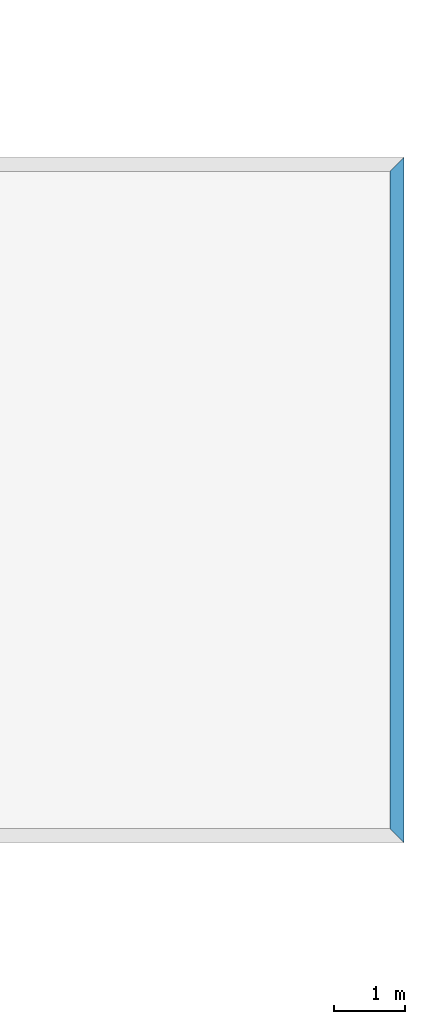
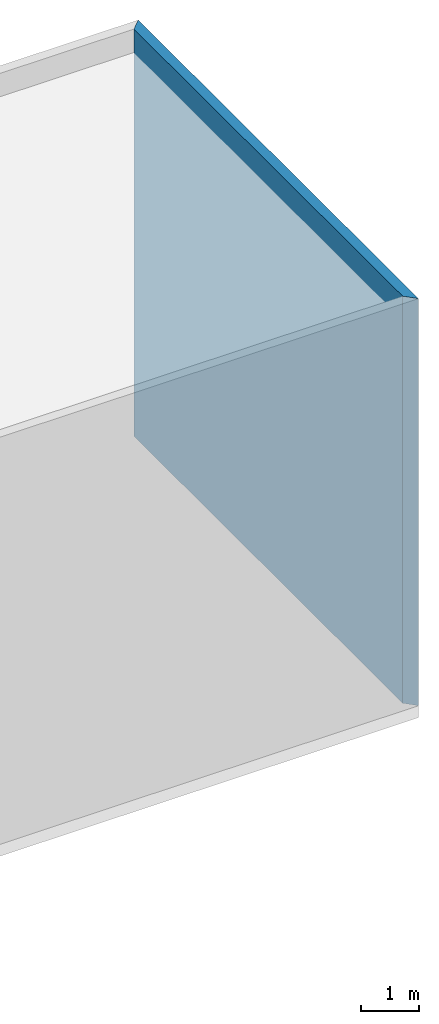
# One storey, part 39 of 123: 1 beam, 1 element without a shape of its own.
"""IFC2X3 building model written with IfcOpenShell, lengths in millimetres."""

from ifc_helpers import new_model, si_unit, frame, origin_with_axes, origin_2d_with_axis, place, context, subcontext, project, spatial, rectangle, extrude, clip, halfspace, material, type_object, element, aggregate, save


model = new_model("IFC2X3")

# Units and contexts
model_context = context("Model", 3, precision=1e-05, world=origin_with_axes())
body_context = subcontext(model_context, "Body", "Model", "MODEL_VIEW")
ifc_project = project(units=[si_unit("LENGTHUNIT", "METRE", prefix="MILLI"), si_unit("AREAUNIT", "SQUARE_METRE"), si_unit("VOLUMEUNIT", "CUBIC_METRE"), si_unit("MASSUNIT", "GRAM", prefix="KILO"), si_unit("TIMEUNIT", "SECOND"), si_unit("PLANEANGLEUNIT", "RADIAN"), si_unit("SOLIDANGLEUNIT", "STERADIAN"), si_unit("THERMODYNAMICTEMPERATUREUNIT", "DEGREE_CELSIUS"), si_unit("LUMINOUSINTENSITYUNIT", "LUMEN")], contexts=[model_context])

# Site, building, storey
site_placement = place(None, origin_with_axes())
site = spatial("IfcSite", under=ifc_project, at=site_placement, Name="Undefined", CompositionType="ELEMENT")
building_placement = place(site_placement, origin_with_axes())
building = spatial("IfcBuilding", under=site, at=building_placement, Name="Undefined", CompositionType="ELEMENT")
storey_placement = place(building_placement, origin_with_axes())
storey = spatial("IfcBuildingStorey", under=building, at=storey_placement, Name="Undefined", CompositionType="ELEMENT", Elevation=0.0)

# Assembly, beam
assembly_placement = place(storey_placement, origin_with_axes())
assembly = element("IfcElementAssembly", 1, at=assembly_placement, inside=storey, Name="POUTRE", AssemblyPlace="NOTDEFINED", PredefinedType="REINFORCEMENT_UNIT")
ifc_material = material(Name="CONCRETE/C25/30")
beam_type = type_object("IfcBeamType", Name="8550*200", PredefinedType="NOTDEFINED")
beam_placement = place(assembly_placement, frame((48979.9999999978, 15389.9999999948, 4275.0), z_axis=(0.0, 0.0, 1.0), x_axis=(0.0, 1.0, 0.0)))
beam = element("IfcBeam", 2, at=beam_placement, type_object=beam_type, material=ifc_material, Name="POUTRE", ObjectType="8550*200", context=body_context, shape_type="Clipping", body=[
    clip(clip(extrude(rectangle(XDim=200.0, YDim=8550.0, at=origin_2d_with_axis()), frame((9752.0002879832, 0.0, 0.0), z_axis=(-1.0, 0.0, 0.0), x_axis=(0.0, -1.0, 0.0)), (0.0, 0.0, 1.0), 9854.0), halfspace(frame((9650.0001439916, -99.9998560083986, -4275.0), z_axis=(0.707106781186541, 0.707106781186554, 0.0), x_axis=(0.0, 0.0, 1.0)), False)), halfspace(frame((200.000153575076, 100.000729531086, -4275.0), z_axis=(-0.707106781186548, 0.707106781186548, 0.0), x_axis=(0.0, 0.0, 1.0)), False)),
])
aggregate(assembly, [beam])

save(model, "model.ifc")
